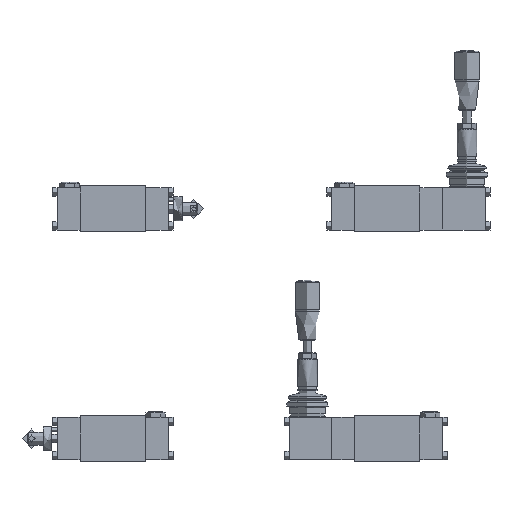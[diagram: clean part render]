
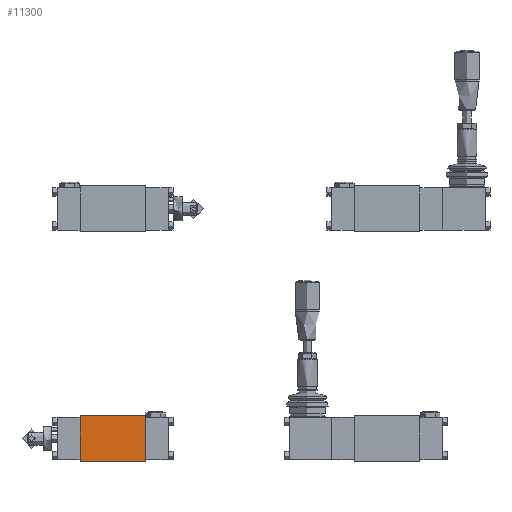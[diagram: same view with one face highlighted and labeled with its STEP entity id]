
A CAD part, front view. The second image highlights one B-rep face of the part: STEP entity #11300.
In plain terms, the highlighted planar face has unit normal (0, -1, 0).
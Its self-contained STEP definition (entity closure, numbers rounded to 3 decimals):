
#11300=ADVANCED_FACE('', (#11310), #11320, .T.);
#50260=AXIS2_PLACEMENT_3D('Ax2Pl3d', #50270, #50280, #50290);
#173540=CARTESIAN_POINT('', (-173.,50.,0.));
#173550=CARTESIAN_POINT('', (-227.,50.,0.));
#173560=CARTESIAN_POINT('', (-173.,50.,0.));
#173860=CARTESIAN_POINT('', (-173.,50.,38.));
#173870=CARTESIAN_POINT('', (-173.,50.,38.));
#173960=CARTESIAN_POINT('', (-227.,50.,38.));
#173970=CARTESIAN_POINT('', (-227.,50.,38.));
#174080=CARTESIAN_POINT('', (-173.,50.,38.));
#50270=CARTESIAN_POINT('HicPkt', (-227.,50.,0.));
#247820=DIRECTION('', (1.,0.,0.));
#247880=DIRECTION('', (0.,0.,1.));
#247890=DIRECTION('', (0.,0.,1.));
#247920=DIRECTION('', (1.,0.,0.));
#50280=DIRECTION('Axis', (0.,-1.,
0.));
#50290=DIRECTION('RefDirection', (0.,
0.,-1.));
#262380=EDGE_CURVE('', #262390, #262400, #262410, .T.);
#262980=EDGE_CURVE('', #262400, #262960, #262990, .T.);
#263160=EDGE_CURVE('', #262390, #263170, #263180, .T.);
#263380=EDGE_CURVE('', #263170, #262960, #263390, .T.);
#299000=EDGE_LOOP('Edge_loop', (#299010,#299020,#299030,#299040));
#11310=FACE_OUTER_BOUND('Face_outer_bound', #299000, .T.);
#262410=LINE('Line', #173540, #351870);
#262990=LINE('Line', #173870, #351930);
#263180=LINE('Line', #173960, #351940);
#263390=LINE('Line', #174080, #351970);
#299010=ORIENTED_EDGE('', *, *, #262380, .T.);
#299020=ORIENTED_EDGE('', *, *, #262980, .T.);
#299030=ORIENTED_EDGE('', *, *, #263380, .F.);
#299040=ORIENTED_EDGE('', *, *, #263160, .F.);
#11320=PLANE('Plane', #50260);
#351870=VECTOR('', #247820, 54.);
#351930=VECTOR('', #247880, 38.);
#351940=VECTOR('', #247890, 38.);
#351970=VECTOR('', #247920, 54.);
#262390=VERTEX_POINT('', #173550);
#262400=VERTEX_POINT('', #173560);
#262960=VERTEX_POINT('', #173860);
#263170=VERTEX_POINT('', #173970);
